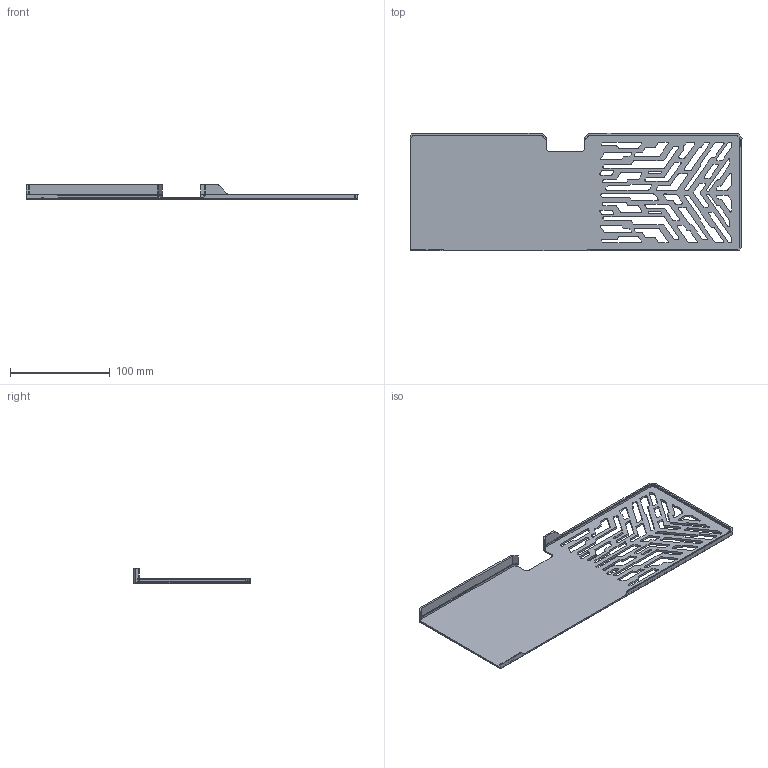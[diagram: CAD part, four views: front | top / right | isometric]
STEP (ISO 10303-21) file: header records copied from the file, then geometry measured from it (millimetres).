
FILE_DESCRIPTION((''),'2;1');
FILE_NAME('F332_MAKER_BACKPLATE_V2','2025-04-23T13:56:53',('Kate'),(''),'CREO PARAMETRIC BY PTC INC, 2021304','CREO PARAMETRIC BY PTC INC, 2021304','');
FILE_SCHEMA(('AUTOMOTIVE_DESIGN { 1 0 10303 214 1 1 1 1 }'));
Length unit declared in the file: millimetre
Products named in the file (1): F332_MAKER_BACKPLATE_V2
Bounding box: 332.2 x 117.2 x 14.9 mm (x, y, z)
Volume: 69905.4 mm3; surface area: 78043.6 mm2
Topology: 1 solids, 1 shells, 551 faces, 1606 edges, 1057 vertices
Faces by surface type: cylinder 256, plane 254, extrusion 19, revolution 10, torus 6, bspline 4, sphere 2
Entity records: 25331 total; most frequent: CARTESIAN_POINT 4749, ORIENTED_EDGE 3212, DIRECTION 3098, PRESENTATION_STYLE_ASSIGNMENT 1607, STYLED_ITEM 1607, CURVE_STYLE 1606, EDGE_CURVE 1606, VERTEX_POINT 1057
